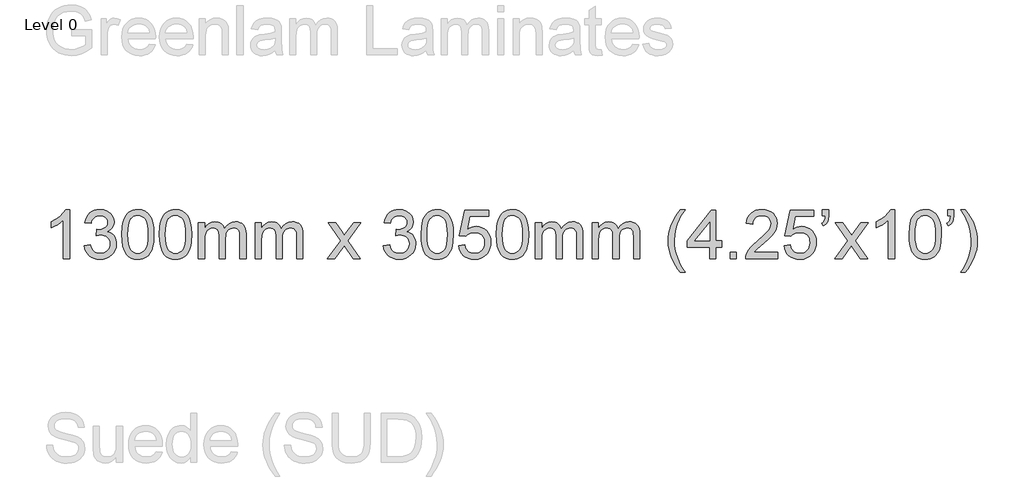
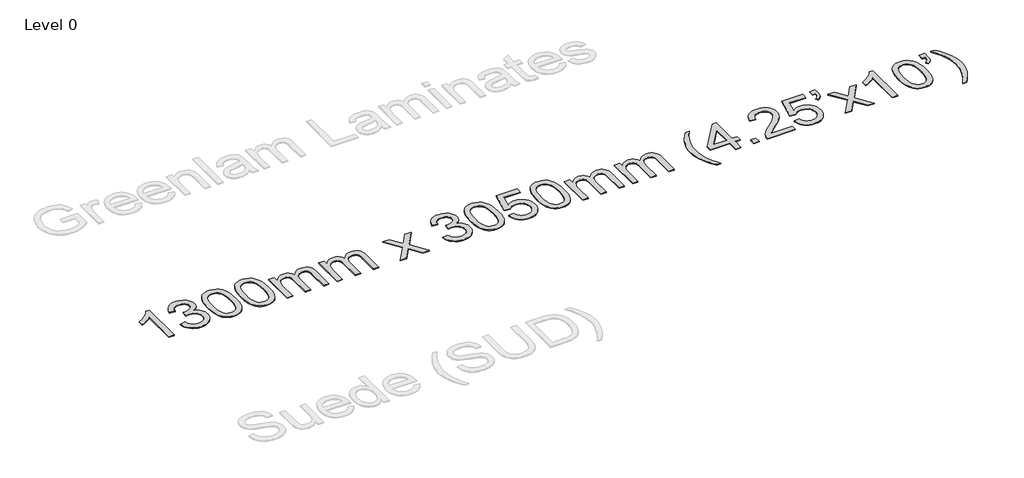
# One storey, part 42 of 43: 1 proxy.
"""IFC4 building model written with IfcOpenShell, lengths in millimetres."""

import ifcopenshell
import ifcopenshell.guid

model = None  # the IFC model being written
_history = None  # IfcOwnerHistory: only IFC2X3 demands one
_inside = {}  # id of a spatial element -> (the spatial element, [elements in it])
_under = {}  # id of a project, library or spatial element -> (it, [spatial elements below it])
_declared = {}  # id of a project -> (the project, [libraries it declares])
_typed = {}  # id of a type object -> (the type object, [elements of that type])
_made_of = {}  # id of a material, layer set ... -> (it, [elements and type objects made of it])


def new_model(schema):
    """Start an empty IFC model of exactly this schema.

    Asked for "IFC4X3", IfcOpenShell would pick the latest addendum, in which some entities
    have other attributes; the version numbers below select the first issue.
    IFC2X3 requires an IfcOwnerHistory on every rooted entity: one is made here for all.
    """
    global model, _history
    if schema == "IFC4X3":
        model = ifcopenshell.file(schema_version=(4, 3, 0, 0))
    else:
        model = ifcopenshell.file(schema=schema)
    _inside.clear()
    _under.clear()
    _declared.clear()
    _typed.clear()
    _made_of.clear()
    _history = None
    if model.schema == "IFC2X3":
        org = make("IfcOrganization", Name="unknown")
        user = make(
            "IfcPersonAndOrganization",
            ThePerson=make("IfcPerson", FamilyName="unknown"),
            TheOrganization=org,
        )
        app = make(
            "IfcApplication",
            ApplicationDeveloper=org,
            Version="unknown",
            ApplicationFullName="unknown",
            ApplicationIdentifier="unknown",
        )
        _history = make(
            "IfcOwnerHistory",
            OwningUser=user,
            OwningApplication=app,
            ChangeAction="ADDED",
            CreationDate=0,
        )
    return model


def make(cls, **values):
    """One entity of the class cls with the attributes given. An attribute that is None is left unset."""
    return model.create_entity(
        cls, **{name: value for name, value in values.items() if value is not None}
    )


def rooted(cls, **values):
    """An entity with a GlobalId (a new one), such as an element, a storey or a relation."""
    return make(cls, GlobalId=ifcopenshell.guid.new(), OwnerHistory=_history, **values)


def si_unit(unit_type, name, prefix=None):
    """IfcSIUnit, for example si_unit("LENGTHUNIT", "METRE", prefix="MILLI")."""
    return make("IfcSIUnit", UnitType=unit_type, Prefix=prefix, Name=name)


def assignment(units):
    """IfcUnitAssignment: the units of a project."""
    return None if units is None else make("IfcUnitAssignment", Units=units)


def point(xyz):
    """IfcCartesianPoint."""
    return None if xyz is None else make("IfcCartesianPoint", Coordinates=xyz)


def direction(xyz):
    """IfcDirection."""
    return None if xyz is None else make("IfcDirection", DirectionRatios=xyz)


def frame(location, z_axis=None, x_axis=None):
    """IfcAxis2Placement3D, a coordinate frame: its origin and axes. An axis left out is left unset."""
    return make(
        "IfcAxis2Placement3D",
        Location=point(location),
        Axis=direction(z_axis),
        RefDirection=direction(x_axis),
    )


def origin():
    """The frame at (0, 0, 0) with its axes left unset."""
    return frame((0.0, 0.0, 0.0))


def origin_with_axes():
    """The frame at (0, 0, 0) with the z axis (0, 0, 1) and the x axis (1, 0, 0) written out."""
    return frame((0.0, 0.0, 0.0), z_axis=(0.0, 0.0, 1.0), x_axis=(1.0, 0.0, 0.0))


def place(relative_to, where):
    """IfcLocalPlacement: puts the frame where relative to a parent placement (None: the world)."""
    return make(
        "IfcLocalPlacement", PlacementRelTo=relative_to, RelativePlacement=where
    )


def context(
    kind, dimensions, precision=None, world=None, true_north=None, identifier=None
):
    """IfcGeometricRepresentationContext, for example the 3D "Model" context."""
    return make(
        "IfcGeometricRepresentationContext",
        ContextIdentifier=identifier,
        ContextType=kind,
        CoordinateSpaceDimension=dimensions,
        Precision=precision,
        WorldCoordinateSystem=world,
        TrueNorth=true_north,
    )


def project(units=None, contexts=None):
    """IfcProject with its units and contexts."""
    return rooted(
        "IfcProject",
        Name="project",
        RepresentationContexts=contexts,
        UnitsInContext=assignment(units),
    )


def spatial(cls, under=None, at=None, **own):
    """A site, building, storey or space (cls), placed at a placement, below another one or the project."""
    s = rooted(cls, ObjectPlacement=at, **own)
    if under is not None:
        _under.setdefault(under.id(), (under, []))[1].append(s)
    return s


def polyline(points):
    """IfcPolyline through the points."""
    return make("IfcPolyline", Points=[point(p) for p in points])


def outline(outer, holes=None, kind="AREA"):
    """IfcArbitraryClosedProfileDef: a profile drawn as a closed curve; with holes, ...WithVoids."""
    if holes is None:
        return make("IfcArbitraryClosedProfileDef", ProfileType=kind, OuterCurve=outer)
    return make(
        "IfcArbitraryProfileDefWithVoids",
        ProfileType=kind,
        OuterCurve=outer,
        InnerCurves=holes,
    )


def extrude(swept, where, along, depth):
    """IfcExtrudedAreaSolid: the profile swept, set in the frame where, extruded along a direction by depth."""
    return make(
        "IfcExtrudedAreaSolid",
        SweptArea=swept,
        Position=where,
        ExtrudedDirection=direction(along),
        Depth=depth,
    )


def shape(context_of_items, identifier, shape_type, items):
    """IfcShapeRepresentation: the items that make up one representation, for example the "Body"."""
    return make(
        "IfcShapeRepresentation",
        ContextOfItems=context_of_items,
        RepresentationIdentifier=identifier,
        RepresentationType=shape_type,
        Items=items,
    )


def made_of(thing, what):
    """Note that an element or type object is made of a material, layer set ...; save() writes the relation."""
    if what is not None:
        _made_of.setdefault(what.id(), (what, []))[1].append(thing)
    return thing


def element(
    cls,
    number,
    at=None,
    inside=None,
    cuts=None,
    type_object=None,
    material=None,
    context=None,
    identifier="Body",
    shape_type=None,
    held_by="IfcProductDefinitionShape",
    body=None,
    shapes=None,
    **own,
):
    """One element of the class cls, such as IfcWall. Its Tag is "e" and its number.

    at: its placement. inside: the storey or other place that contains it. cuts: it is an
    opening in that element (IfcRelVoidsElement). A single representation is given by context,
    identifier, shape_type and body (its items); several are given by shapes. held_by: the class
    of the entity that holds the representations. save() writes the other relations.
    """
    e = rooted(cls, Tag="e%d" % number, ObjectPlacement=at, **own)
    if body is not None:
        shapes = [shape(context, identifier, shape_type, body)]
    if shapes is not None:
        e.Representation = make(held_by, Representations=shapes)
    if inside is not None:
        _inside.setdefault(inside.id(), (inside, []))[1].append(e)
    if cuts is not None:
        rooted(
            "IfcRelVoidsElement", RelatingBuildingElement=cuts, RelatedOpeningElement=e
        )
    if type_object is not None:
        _typed.setdefault(type_object.id(), (type_object, []))[1].append(e)
    return made_of(e, material)


def aggregate(whole, parts):
    """IfcRelAggregates: a whole, such as a stair, and the parts it consists of."""
    return rooted("IfcRelAggregates", RelatingObject=whole, RelatedObjects=parts)


def save(model, path):
    """Write the relations noted so far, then the file.

    IfcRelAggregates (storeys below a building ...), IfcRelContainedInSpatialStructure (elements
    in a storey), IfcRelDefinesByType, IfcRelAssociatesMaterial and IfcRelDeclares: one each for
    every whole, place, type object, material and project.
    """
    for whole, parts in _under.values():
        aggregate(whole, parts)
    for where, things in _inside.values():
        rooted(
            "IfcRelContainedInSpatialStructure",
            RelatedElements=things,
            RelatingStructure=where,
        )
    for kind, things in _typed.values():
        rooted("IfcRelDefinesByType", RelatedObjects=things, RelatingType=kind)
    for what, things in _made_of.values():
        rooted("IfcRelAssociatesMaterial", RelatedObjects=things, RelatingMaterial=what)
    for by, libraries in _declared.values():
        rooted("IfcRelDeclares", RelatingContext=by, RelatedDefinitions=libraries)
    model.write(path)


model = new_model("IFC4")

# Units and contexts
model_context = context("Model", 3, world=origin())
ifc_project = project(units=[si_unit("LENGTHUNIT", "METRE", prefix="MILLI")], contexts=[model_context])

# Site, building, storey
site = spatial("IfcSite", under=ifc_project)
building = spatial("IfcBuilding", under=site)
storey = spatial("IfcBuildingStorey", under=building, Name="Level 0", Elevation=0.0)

# Proxy
placement = place(None, origin())
element("IfcBuildingElementProxy", 1, Name="600mm Arial", ObjectType="600mm Arial", at=placement, inside=storey, context=model_context, shape_type="SweptSolid", body=[
    extrude(outline(polyline([(-10623.1831502, 260.1279527), (-10698.5253828, 260.1279527), (-10698.5253828, 729.8396841), (-10729.9792934, 704.4006441), (-10769.8944899, 678.9983924), (-10811.7962491, 656.796714), (-10849.209848, 640.9593941), (-10849.209848, 712.1813483), (-10790.0360291, 744.3710229), (-10738.7716731, 782.6675386), (-10698.3598359, 823.3920755), (-10671.7435735, 862.8658136), (-10623.1831502, 862.8658136), (-10623.1831502, 260.1279527)])), origin_with_axes(), (0.0, 0.0, 1.0), 10.0),
    extrude(outline(polyline([(-10444.2453477, 420.230197), (-10368.9031151, 429.647976), (-10352.0357256, 382.3015633), (-10340.6635735, 364.3949072), (-10327.3324497, 350.3326179), (-10311.7388516, 339.7100253), (-10293.5792766, 332.1224591), (-10272.8537247, 327.5699194), (-10249.5621959, 326.0524062), (-10222.2653518, 328.1401365), (-10197.9115638, 334.4033275), (-10176.5008316, 344.8419791), (-10158.0331555, 359.4560914), (-10143.1615258, 377.1512153), (-10132.5389332, 396.8329021), (-10126.1653776, 418.5011516), (-10124.0408591, 442.1559639), (-10126.1469835, 464.6841376), (-10132.4653568, 485.1797632), (-10142.9959789, 503.6428409), (-10157.7388499, 520.0733705), (-10175.7282794, 533.5608441), (-10195.9985774, 543.1947539), (-10218.5497437, 548.9750997), (-10243.3817784, 550.9018817), (-10267.1837434, 548.8417425), (-10296.2096329, 542.661325), (-10287.8219234, 618.0035576), (-10275.7553939, 617.1206408), (-10230.6162731, 622.5285061), (-10190.2596183, 638.7521021), (-10173.6497462, 651.0209666), (-10161.7855518, 666.1960989), (-10154.6670352, 684.277499), (-10152.2941963, 705.2651668), (-10154.0140447, 722.3027017), (-10159.1735897, 737.8043293), (-10167.7728313, 751.7700496), (-10179.8117696, 764.1998625), (-10194.5638376, 774.4039893), (-10211.3024684, 781.6926513), (-10250.7394183, 787.523581), (-10271.3959923, 786.052053), (-10290.2499445, 781.637469), (-10307.301275, 774.2798291), (-10322.5499837, 763.9791333), (-10335.6189916, 750.7353814), (-10346.1312196, 734.5485737), (-10354.0866678, 715.4187099), (-10359.485336, 693.3457902), (-10434.8275686, 702.7635693), (-10425.8972332, 738.7332313), (-10412.6442843, 770.4170682), (-10395.068722, 797.8150798), (-10373.1705463, 820.9272661), (-10347.6395358, 839.2753806), (-10319.1654694, 852.3811767), (-10287.748347, 860.2446544), (-10253.3881686, 862.8658136), (-10206.0233617, 857.6970715), (-10162.5213158, 842.1908454), (-10125.8434809, 817.7266928), (-10098.951307, 785.684171), (-10082.4517996, 748.7672128), (-10076.9519637, 709.6797508), (-10082.1758881, 673.2594333), (-10097.8476611, 640.2236301), (-10123.7465535, 612.0806575), (-10159.6518363, 590.3388315), (-10134.5438901, 582.4845509), (-10112.4893645, 571.2825442), (-10093.4882594, 556.7328113), (-10077.5405749, 538.8353522), (-10064.9222225, 518.0316254), (-10055.9091136, 494.7630892), (-10050.5012483, 469.0297436), (-10048.6986265, 440.8315887), (-10052.3038701, 402.6086494), (-10063.1196007, 367.4023425), (-10081.1458185, 335.2126679), (-10106.3825234, 306.0396257), (-10137.1282611, 281.8329904), (-10171.6815775, 264.5425366), (-10210.0424725, 254.1682643), (-10252.2109462, 250.7101736), (-10290.3235209, 253.6624266), (-10325.0515813, 262.5191856), (-10356.3951273, 277.2804507), (-10384.3541589, 297.9462218), (-10407.797439, 323.3024883), (-10425.5937306, 352.1352397), (-10437.7430335, 384.4444759), (-10444.2453477, 420.230197)])), origin_with_axes(), (0.0, 0.0, 1.0), 10.0),
    extrude(outline(polyline([(-9982.774173, 556.6408408), (-9977.2375489, 653.117894), (-9970.3167689, 694.0309704), (-9960.6276769, 730.0604133), (-9948.2116595, 761.5005283), (-9933.1101036, 788.645621), (-9915.3230092, 811.4956915), (-9894.8503761, 830.0507396), (-9871.6232267, 844.4073345), (-9845.5725829, 854.6620451), (-9816.6984448, 860.8148714), (-9785.0008124, 862.8658136), (-9738.5741046, 858.0097712), (-9697.0034391, 843.4416442), (-9662.2385906, 819.7316496), (-9636.2293335, 787.4500046), (-9616.584435, 746.8726205), (-9600.912662, 698.2754089), (-9590.6487543, 636.5632042), (-9587.2274518, 556.6408408), (-9592.7088935, 460.7156105), (-9599.5606956, 419.9404899), (-9609.1532187, 383.9570322), (-9621.472667, 352.5031217), (-9636.505245, 325.3166422), (-9654.2509528, 302.3975939), (-9674.7097902, 283.7459768), (-9697.9645308, 269.2928129), (-9724.0979481, 258.9691244), (-9753.1100419, 252.7749113), (-9785.0008124, 250.7101736), (-9826.4979014, 254.297023), (-9863.2861009, 265.0575714), (-9895.3654109, 282.9918187), (-9922.7358314, 308.0997648), (-9949.0026058, 353.487206), (-9967.7645876, 410.0398657), (-9979.0217766, 477.757744), (-9982.774173, 556.6408408)]), holes=[polyline([(-9907.4319404, 556.7879936), (-9905.2246484, 491.2912029), (-9898.6027725, 438.2748088), (-9887.5663126, 397.7388115), (-9872.1152688, 369.6832108), (-9853.4268635, 350.5947338), (-9832.6783189, 336.9601074), (-9809.8696352, 328.7793315), (-9785.0008124, 326.0524062), (-9760.1319895, 328.7885285), (-9737.3233058, 336.9968956), (-9716.5747613, 350.6775073), (-9697.8863559, 369.8303636), (-9682.4353121, 397.9319495), (-9671.3988523, 438.4587498), (-9664.7769763, 491.4107645), (-9662.5696844, 556.7879936), (-9664.7033999, 620.5511404), (-9671.1045467, 672.6340339), (-9681.7731245, 713.036674), (-9696.7091335, 741.7590608), (-9715.0848392, 761.7810383), (-9736.072507, 776.0824509), (-9759.672137, 784.6632984), (-9785.8837292, 787.523581), (-9810.6237933, 785.0035893), (-9833.0462009, 777.4436143), (-9853.150952, 764.843656), (-9870.9380464, 747.2037143), (-9886.904125, 715.9337447), (-9898.3084669, 673.774468), (-9905.151072, 620.7258843), (-9907.4319404, 556.7879936)])]), origin_with_axes(), (0.0, 0.0, 1.0), 10.0),
    extrude(outline(polyline([(-9521.3029982, 556.6408408), (-9515.7663742, 653.117894), (-9508.8455942, 694.0309704), (-9499.1565021, 730.0604133), (-9486.7404848, 761.5005283), (-9471.6389289, 788.645621), (-9453.8518344, 811.4956915), (-9433.3792014, 830.0507396), (-9410.1520519, 844.4073345), (-9384.1014081, 854.6620451), (-9355.22727, 860.8148714), (-9323.5296376, 862.8658136), (-9277.1029298, 858.0097712), (-9235.5322644, 843.4416442), (-9200.7674158, 819.7316496), (-9174.7581588, 787.4500046), (-9155.1132602, 746.8726205), (-9139.4414872, 698.2754089), (-9129.1775796, 636.5632042), (-9125.756277, 556.6408408), (-9131.2377187, 460.7156105), (-9138.0895209, 419.9404899), (-9147.6820439, 383.9570322), (-9160.0014922, 352.5031217), (-9175.0340703, 325.3166422), (-9192.779778, 302.3975939), (-9213.2386155, 283.7459768), (-9236.4933561, 269.2928129), (-9262.6267733, 258.9691244), (-9291.6388672, 252.7749113), (-9323.5296376, 250.7101736), (-9365.0267267, 254.297023), (-9401.8149262, 265.0575714), (-9433.8942362, 282.9918187), (-9461.2646566, 308.0997648), (-9487.5314311, 353.487206), (-9506.2934128, 410.0398657), (-9517.5506019, 477.757744), (-9521.3029982, 556.6408408)]), holes=[polyline([(-9445.9607656, 556.7879936), (-9443.7534736, 491.2912029), (-9437.1315977, 438.2748088), (-9426.0951379, 397.7388115), (-9410.6440941, 369.6832108), (-9391.9556887, 350.5947338), (-9371.2071442, 336.9601074), (-9348.3984605, 328.7793315), (-9323.5296376, 326.0524062), (-9298.6608147, 328.7885285), (-9275.852131, 336.9968956), (-9255.1035865, 350.6775073), (-9236.4151812, 369.8303636), (-9220.9641374, 397.9319495), (-9209.9276775, 438.4587498), (-9203.3058016, 491.4107645), (-9201.0985096, 556.7879936), (-9203.2322252, 620.5511404), (-9209.6333719, 672.6340339), (-9220.3019498, 713.036674), (-9235.2379588, 741.7590608), (-9253.6136644, 761.7810383), (-9274.6013323, 776.0824509), (-9298.2009622, 784.6632984), (-9324.4125544, 787.523581), (-9349.1526186, 785.0035893), (-9371.5750262, 777.4436143), (-9391.6797772, 764.843656), (-9409.4668717, 747.2037143), (-9425.4329503, 715.9337447), (-9436.8372921, 673.774468), (-9443.6798972, 620.7258843), (-9445.9607656, 556.7879936)])]), origin_with_axes(), (0.0, 0.0, 1.0), 10.0),
    extrude(outline(polyline([(-9040.9962653, 260.1279527), (-9040.9962653, 702.7635693), (-8965.6540327, 702.7635693), (-8965.6540327, 629.9229342), (-8942.9925018, 663.3818017), (-8913.8562478, 689.5933938), (-8879.238552, 706.5343597), (-8840.132696, 712.1813483), (-8798.2309367, 706.4239951), (-8780.397857, 699.2273036), (-8764.6433105, 689.1519354), (-8739.5537585, 661.5056035), (-8723.1462215, 624.6254335), (-8695.6838305, 662.9311462), (-8664.3586787, 690.2923696), (-8629.1707658, 706.7091037), (-8590.120092, 712.1813483), (-8559.958367, 709.9050785), (-8533.4846589, 703.076269), (-8510.6989678, 691.6949197), (-8491.6012937, 675.7610308), (-8476.5043363, 655.0906612), (-8465.7207954, 629.4998699), (-8459.2506708, 598.988657), (-8457.0939626, 563.5570223), (-8457.0939626, 260.1279527), (-8532.4361952, 260.1279527), (-8532.4361952, 531.1834067), (-8534.1836347, 568.7625525), (-8539.4259531, 594.0912279), (-8549.2484024, 611.436864), (-8564.7362344, 625.0668919), (-8584.6570444, 633.8960598), (-8607.7784278, 636.8391157), (-8629.1293791, 634.9537205), (-8648.5949352, 629.2975348), (-8666.175096, 619.8705587), (-8681.8698616, 606.6727921), (-8694.7779211, 589.317959), (-8703.9979636, 567.4197832), (-8709.5299891, 540.9782648), (-8711.3739976, 509.9934038), (-8711.3739976, 260.1279527), (-8786.7162303, 260.1279527), (-8786.7162303, 539.5711162), (-8791.0756319, 582.1718512), (-8796.5248839, 598.8920879), (-8804.1538368, 612.5589041), (-8814.2659932, 623.1814967), (-8827.1648556, 630.7690628), (-8842.8504242, 635.3216025), (-8861.3226989, 636.8391157), (-8890.3485883, 632.7924138), (-8917.0936093, 620.6523079), (-8939.1665291, 600.7131038), (-8954.1761145, 573.269107), (-8962.7845531, 535.1933205), (-8965.6540327, 483.3587473), (-8965.6540327, 260.1279527), (-9040.9962653, 260.1279527)])), origin_with_axes(), (0.0, 0.0, 1.0), 10.0),
    extrude(outline(polyline([(-8344.0806137, 260.1279527), (-8344.0806137, 702.7635693), (-8268.738381, 702.7635693), (-8268.738381, 629.9229342), (-8246.0768501, 663.3818017), (-8216.9405961, 689.5933938), (-8182.3229004, 706.5343597), (-8143.2170443, 712.1813483), (-8101.315285, 706.4239951), (-8083.4822053, 699.2273036), (-8067.7276589, 689.1519354), (-8042.6381068, 661.5056035), (-8026.2305698, 624.6254335), (-7998.7681789, 662.9311462), (-7967.443027, 690.2923696), (-7932.2551142, 706.7091037), (-7893.2044404, 712.1813483), (-7863.0427153, 709.9050785), (-7836.5690072, 703.076269), (-7813.7833161, 691.6949197), (-7794.6856421, 675.7610308), (-7779.5886847, 655.0906612), (-7768.8051437, 629.4998699), (-7762.3350191, 598.988657), (-7760.1783109, 563.5570223), (-7760.1783109, 260.1279527), (-7835.5205435, 260.1279527), (-7835.5205435, 531.1834067), (-7837.267983, 568.7625525), (-7842.5103014, 594.0912279), (-7852.3327507, 611.436864), (-7867.8205827, 625.0668919), (-7887.7413927, 633.8960598), (-7910.8627761, 636.8391157), (-7932.2137274, 634.9537205), (-7951.6792835, 629.2975348), (-7969.2594443, 619.8705587), (-7984.95421, 606.6727921), (-7997.8622695, 589.317959), (-8007.082312, 567.4197832), (-8012.6143375, 540.9782648), (-8014.458346, 509.9934038), (-8014.458346, 260.1279527), (-8089.8005786, 260.1279527), (-8089.8005786, 539.5711162), (-8094.1599802, 582.1718512), (-8099.6092323, 598.8920879), (-8107.2381852, 612.5589041), (-8117.3503415, 623.1814967), (-8130.249204, 630.7690628), (-8145.9347725, 635.3216025), (-8164.4070472, 636.8391157), (-8193.4329366, 632.7924138), (-8220.1779577, 620.6523079), (-8242.2508774, 600.7131038), (-8257.2604628, 573.269107), (-8265.8689015, 535.1933205), (-8268.738381, 483.3587473), (-8268.738381, 260.1279527), (-8344.0806137, 260.1279527)])), origin_with_axes(), (0.0, 0.0, 1.0), 10.0),
    extrude(outline(polyline([(-7458.8093805, 260.1279527), (-7297.8242194, 482.6229834), (-7449.3916014, 702.7635693), (-7358.7454778, 702.7635693), (-7285.6105371, 596.8135547), (-7251.471088, 546.7816033), (-7221.8933756, 587.6900812), (-7138.6048919, 702.7635693), (-7047.9587682, 702.7635693), (-7207.1780958, 482.6229834), (-7053.8448802, 260.1279527), (-7144.4910038, 260.1279527), (-7236.7558082, 393.8898461), (-7253.67838, 418.3172106), (-7368.1632569, 260.1279527), (-7458.8093805, 260.1279527)])), origin_with_axes(), (0.0, 0.0, 1.0), 10.0),
    extrude(outline(polyline([(-6771.3115079, 420.230197), (-6695.9692753, 429.647976), (-6679.1018858, 382.3015633), (-6667.7297336, 364.3949072), (-6654.3986098, 350.3326179), (-6638.8050117, 339.7100253), (-6620.6454368, 332.1224591), (-6599.9198848, 327.5699194), (-6576.628356, 326.0524062), (-6549.331512, 328.1401365), (-6524.9777239, 334.4033275), (-6503.5669918, 344.8419791), (-6485.0993156, 359.4560914), (-6470.227686, 377.1512153), (-6459.6050934, 396.8329021), (-6453.2315378, 418.5011516), (-6451.1070193, 442.1559639), (-6453.2131437, 464.6841376), (-6459.531517, 485.1797632), (-6470.0621391, 503.6428409), (-6484.80501, 520.0733705), (-6502.7944396, 533.5608441), (-6523.0647375, 543.1947539), (-6545.6159038, 548.9750997), (-6570.4479385, 550.9018817), (-6594.2499036, 548.8417425), (-6623.275793, 542.661325), (-6614.8880835, 618.0035576), (-6602.8215541, 617.1206408), (-6557.6824333, 622.5285061), (-6517.3257784, 638.7521021), (-6500.7159063, 651.0209666), (-6488.851712, 666.1960989), (-6481.7331954, 684.277499), (-6479.3603565, 705.2651668), (-6481.0802048, 722.3027017), (-6486.2397498, 737.8043293), (-6494.8389915, 751.7700496), (-6506.8779297, 764.1998625), (-6521.6299977, 774.4039893), (-6538.3686285, 781.6926513), (-6577.8055784, 787.523581), (-6598.4621524, 786.052053), (-6617.3161047, 781.637469), (-6634.3674352, 774.2798291), (-6649.6161439, 763.9791333), (-6662.6851517, 750.7353814), (-6673.1973798, 734.5485737), (-6681.1528279, 715.4187099), (-6686.5514962, 693.3457902), (-6761.8937288, 702.7635693), (-6752.9633934, 738.7332313), (-6739.7104445, 770.4170682), (-6722.1348822, 797.8150798), (-6700.2367064, 820.9272661), (-6674.7056959, 839.2753806), (-6646.2316295, 852.3811767), (-6614.8145071, 860.2446544), (-6580.4543288, 862.8658136), (-6533.0895219, 857.6970715), (-6489.587476, 842.1908454), (-6452.9096411, 817.7266928), (-6426.0174672, 785.684171), (-6409.5179597, 748.7672128), (-6404.0181239, 709.6797508), (-6409.2420482, 673.2594333), (-6424.9138212, 640.2236301), (-6450.8127137, 612.0806575), (-6486.7179964, 590.3388315), (-6461.6100502, 582.4845509), (-6439.5555246, 571.2825442), (-6420.5544196, 556.7328113), (-6404.6067351, 538.8353522), (-6391.9883826, 518.0316254), (-6382.9752738, 494.7630892), (-6377.5674084, 469.0297436), (-6375.7647867, 440.8315887), (-6379.3700302, 402.6086494), (-6390.1857609, 367.4023425), (-6408.2119786, 335.2126679), (-6433.4486835, 306.0396257), (-6464.1944213, 281.8329904), (-6498.7477376, 264.5425366), (-6537.1086327, 254.1682643), (-6579.2771064, 250.7101736), (-6617.3896811, 253.6624266), (-6652.1177414, 262.5191856), (-6683.4612874, 277.2804507), (-6711.4203191, 297.9462218), (-6734.8635992, 323.3024883), (-6752.6598907, 352.1352397), (-6764.8091936, 384.4444759), (-6771.3115079, 420.230197)])), origin_with_axes(), (0.0, 0.0, 1.0), 10.0),
    extrude(outline(polyline([(-6309.8403331, 556.6408408), (-6304.3037091, 653.117894), (-6297.3829291, 694.0309704), (-6287.693837, 730.0604133), (-6275.2778197, 761.5005283), (-6260.1762638, 788.645621), (-6242.3891693, 811.4956915), (-6221.9165363, 830.0507396), (-6198.6893868, 844.4073345), (-6172.638743, 854.6620451), (-6143.7646049, 860.8148714), (-6112.0669725, 862.8658136), (-6065.6402647, 858.0097712), (-6024.0695993, 843.4416442), (-5989.3047507, 819.7316496), (-5963.2954937, 787.4500046), (-5943.6505951, 746.8726205), (-5927.9788221, 698.2754089), (-5917.7149145, 636.5632042), (-5914.2936119, 556.6408408), (-5919.7750536, 460.7156105), (-5926.6268558, 419.9404899), (-5936.2193788, 383.9570322), (-5948.5388271, 352.5031217), (-5963.5714052, 325.3166422), (-5981.3171129, 302.3975939), (-6001.7759504, 283.7459768), (-6025.030691, 269.2928129), (-6051.1641082, 258.9691244), (-6080.1762021, 252.7749113), (-6112.0669725, 250.7101736), (-6153.5640616, 254.297023), (-6190.3522611, 265.0575714), (-6222.4315711, 282.9918187), (-6249.8019915, 308.0997648), (-6276.068766, 353.487206), (-6294.8307477, 410.0398657), (-6306.0879368, 477.757744), (-6309.8403331, 556.6408408)]), holes=[polyline([(-6234.4981005, 556.7879936), (-6232.2908085, 491.2912029), (-6225.6689326, 438.2748088), (-6214.6324728, 397.7388115), (-6199.181429, 369.6832108), (-6180.4930236, 350.5947338), (-6159.7444791, 336.9601074), (-6136.9357954, 328.7793315), (-6112.0669725, 326.0524062), (-6087.1981496, 328.7885285), (-6064.3894659, 336.9968956), (-6043.6409214, 350.6775073), (-6024.9525161, 369.8303636), (-6009.5014723, 397.9319495), (-5998.4650124, 438.4587498), (-5991.8431365, 491.4107645), (-5989.6358445, 556.7879936), (-5991.7695601, 620.5511404), (-5998.1707068, 672.6340339), (-6008.8392847, 713.036674), (-6023.7752937, 741.7590608), (-6042.1509993, 761.7810383), (-6063.1386672, 776.0824509), (-6086.7382972, 784.6632984), (-6112.9498893, 787.523581), (-6137.6899535, 785.0035893), (-6160.1123611, 777.4436143), (-6180.2171121, 764.843656), (-6198.0042066, 747.2037143), (-6213.9702852, 715.9337447), (-6225.374627, 673.774468), (-6232.2172321, 620.7258843), (-6234.4981005, 556.7879936)])]), origin_with_axes(), (0.0, 0.0, 1.0), 10.0),
    extrude(outline(polyline([(-5848.3691584, 420.230197), (-5773.0269258, 429.647976), (-5767.3983312, 405.4275452), (-5759.1945627, 384.4168847), (-5748.4156203, 366.6159947), (-5735.0615039, 352.0248751), (-5719.1598046, 340.6619199), (-5700.7381137, 332.5455234), (-5679.7964311, 327.6756855), (-5656.3347569, 326.0524062), (-5627.6399613, 328.310282), (-5602.32968, 335.0839092), (-5580.4039131, 346.3732879), (-5561.8626605, 362.1784181), (-5547.1197896, 381.7175506), (-5536.5891675, 404.2089361), (-5530.2707942, 429.6525746), (-5528.1646698, 458.0484661), (-5530.137437, 484.8854576), (-5536.0557386, 508.742605), (-5545.9195746, 529.6199082), (-5559.728945, 547.5173673), (-5577.529835, 561.8739622), (-5599.3682299, 572.1286728), (-5625.2441298, 578.2814991), (-5655.1575345, 580.3324413), (-5691.7066107, 577.0582915), (-5721.3027172, 567.2358422), (-5744.9391354, 552.1894686), (-5763.6091467, 533.2435459), (-5838.9513793, 542.661325), (-5773.0269258, 853.4480345), (-5481.0757744, 853.4480345), (-5481.0757744, 778.1058019), (-5712.1056674, 778.1058019), (-5744.3321301, 612.1174457), (-5717.7434589, 631.173733), (-5690.5109942, 644.7853668), (-5662.6347361, 652.9523471), (-5634.1146844, 655.6746739), (-5597.4230539, 652.2993566), (-5563.7204646, 642.1734047), (-5533.0069165, 625.2968181), (-5505.2824097, 601.669597), (-5482.3311717, 572.7356781), (-5465.9374303, 539.9389982), (-5456.1011854, 503.2795574), (-5452.8224372, 462.7573556), (-5455.7746902, 423.7250759), (-5464.6314492, 387.415123), (-5479.3927143, 353.8274968), (-5500.0584853, 322.9621974), (-5531.3652431, 291.351937), (-5567.8959253, 268.7731796), (-5609.6505317, 255.2259251), (-5656.6290625, 250.7101736), (-5695.5095909, 253.6118428), (-5730.6285258, 262.3168505), (-5761.9858674, 276.8251967), (-5789.5816155, 297.1368814), (-5812.5420506, 322.240229), (-5829.9934527, 351.1235642), (-5841.935822, 383.7868868), (-5848.3691584, 420.230197)])), origin_with_axes(), (0.0, 0.0, 1.0), 10.0),
    extrude(outline(polyline([(-5386.8979836, 556.6408408), (-5381.3613596, 653.117894), (-5374.4405796, 694.0309704), (-5364.7514875, 730.0604133), (-5352.3354702, 761.5005283), (-5337.2339143, 788.645621), (-5319.4468198, 811.4956915), (-5298.9741868, 830.0507396), (-5275.7470373, 844.4073345), (-5249.6963935, 854.6620451), (-5220.8222554, 860.8148714), (-5189.124623, 862.8658136), (-5142.6979152, 858.0097712), (-5101.1272498, 843.4416442), (-5066.3624012, 819.7316496), (-5040.3531442, 787.4500046), (-5020.7082456, 746.8726205), (-5005.0364726, 698.2754089), (-4994.772565, 636.5632042), (-4991.3512624, 556.6408408), (-4996.8327041, 460.7156105), (-5003.6845063, 419.9404899), (-5013.2770293, 383.9570322), (-5025.5964776, 352.5031217), (-5040.6290557, 325.3166422), (-5058.3747634, 302.3975939), (-5078.8336009, 283.7459768), (-5102.0883415, 269.2928129), (-5128.2217587, 258.9691244), (-5157.2338526, 252.7749113), (-5189.124623, 250.7101736), (-5230.6217121, 254.297023), (-5267.4099116, 265.0575714), (-5299.4892216, 282.9918187), (-5326.859642, 308.0997648), (-5353.1264165, 353.487206), (-5371.8883982, 410.0398657), (-5383.1455873, 477.757744), (-5386.8979836, 556.6408408)]), holes=[polyline([(-5311.555751, 556.7879936), (-5309.348459, 491.2912029), (-5302.7265831, 438.2748088), (-5291.6901233, 397.7388115), (-5276.2390795, 369.6832108), (-5257.5506741, 350.5947338), (-5236.8021296, 336.9601074), (-5213.9934459, 328.7793315), (-5189.124623, 326.0524062), (-5164.2558001, 328.7885285), (-5141.4471164, 336.9968956), (-5120.6985719, 350.6775073), (-5102.0101666, 369.8303636), (-5086.5591228, 397.9319495), (-5075.5226629, 438.4587498), (-5068.900787, 491.4107645), (-5066.693495, 556.7879936), (-5068.8272106, 620.5511404), (-5075.2283573, 672.6340339), (-5085.8969352, 713.036674), (-5100.8329442, 741.7590608), (-5119.2086498, 761.7810383), (-5140.1963177, 776.0824509), (-5163.7959477, 784.6632984), (-5190.0075398, 787.523581), (-5214.747604, 785.0035893), (-5237.1700116, 777.4436143), (-5257.2747626, 764.843656), (-5275.0618571, 747.2037143), (-5291.0279357, 715.9337447), (-5302.4322775, 673.774468), (-5309.2748826, 620.7258843), (-5311.555751, 556.7879936)])]), origin_with_axes(), (0.0, 0.0, 1.0), 10.0),
    extrude(outline(polyline([(-4906.5912507, 260.1279527), (-4906.5912507, 702.7635693), (-4831.2490181, 702.7635693), (-4831.2490181, 629.9229342), (-4808.5874872, 663.3818017), (-4779.4512332, 689.5933938), (-4744.8335374, 706.5343597), (-4705.7276814, 712.1813483), (-4663.8259221, 706.4239951), (-4645.9928424, 699.2273036), (-4630.2382959, 689.1519354), (-4605.1487439, 661.5056035), (-4588.7412069, 624.6254335), (-4561.278816, 662.9311462), (-4529.9536641, 690.2923696), (-4494.7657512, 706.7091037), (-4455.7150774, 712.1813483), (-4425.5533524, 709.9050785), (-4399.0796443, 703.076269), (-4376.2939532, 691.6949197), (-4357.1962791, 675.7610308), (-4342.0993217, 655.0906612), (-4331.3157808, 629.4998699), (-4324.8456562, 598.988657), (-4322.688948, 563.5570223), (-4322.688948, 260.1279527), (-4398.0311806, 260.1279527), (-4398.0311806, 531.1834067), (-4399.7786201, 568.7625525), (-4405.0209385, 594.0912279), (-4414.8433878, 611.436864), (-4430.3312198, 625.0668919), (-4450.2520298, 633.8960598), (-4473.3734132, 636.8391157), (-4494.7243645, 634.9537205), (-4514.1899206, 629.2975348), (-4531.7700814, 619.8705587), (-4547.464847, 606.6727921), (-4560.3729065, 589.317959), (-4569.592949, 567.4197832), (-4575.1249745, 540.9782648), (-4576.968983, 509.9934038), (-4576.968983, 260.1279527), (-4652.3112157, 260.1279527), (-4652.3112157, 539.5711162), (-4656.6706173, 582.1718512), (-4662.1198694, 598.8920879), (-4669.7488222, 612.5589041), (-4679.8609786, 623.1814967), (-4692.759841, 630.7690628), (-4708.4454096, 635.3216025), (-4726.9176843, 636.8391157), (-4755.9435737, 632.7924138), (-4782.6885947, 620.6523079), (-4804.7615145, 600.7131038), (-4819.7710999, 573.269107), (-4828.3795385, 535.1933205), (-4831.2490181, 483.3587473), (-4831.2490181, 260.1279527), (-4906.5912507, 260.1279527)])), origin_with_axes(), (0.0, 0.0, 1.0), 10.0),
    extrude(outline(polyline([(-4209.6755991, 260.1279527), (-4209.6755991, 702.7635693), (-4134.3333664, 702.7635693), (-4134.3333664, 629.9229342), (-4111.6718355, 663.3818017), (-4082.5355815, 689.5933938), (-4047.9178858, 706.5343597), (-4008.8120297, 712.1813483), (-3966.9102704, 706.4239951), (-3949.0771907, 699.2273036), (-3933.3226443, 689.1519354), (-3908.2330922, 661.5056035), (-3891.8255552, 624.6254335), (-3864.3631643, 662.9311462), (-3833.0380124, 690.2923696), (-3797.8500996, 706.7091037), (-3758.7994258, 712.1813483), (-3728.6377007, 709.9050785), (-3702.1639926, 703.076269), (-3679.3783015, 691.6949197), (-3660.2806275, 675.7610308), (-3645.1836701, 655.0906612), (-3634.4001291, 629.4998699), (-3627.9300045, 598.988657), (-3625.7732963, 563.5570223), (-3625.7732963, 260.1279527), (-3701.1155289, 260.1279527), (-3701.1155289, 531.1834067), (-3702.8629684, 568.7625525), (-3708.1052868, 594.0912279), (-3717.9277361, 611.436864), (-3733.4155681, 625.0668919), (-3753.3363781, 633.8960598), (-3776.4577615, 636.8391157), (-3797.8087128, 634.9537205), (-3817.2742689, 629.2975348), (-3834.8544297, 619.8705587), (-3850.5491954, 606.6727921), (-3863.4572549, 589.317959), (-3872.6772974, 567.4197832), (-3878.2093229, 540.9782648), (-3880.0533314, 509.9934038), (-3880.0533314, 260.1279527), (-3955.395564, 260.1279527), (-3955.395564, 539.5711162), (-3959.7549656, 582.1718512), (-3965.2042177, 598.8920879), (-3972.8331706, 612.5589041), (-3982.9453269, 623.1814967), (-3995.8441894, 630.7690628), (-4011.5297579, 635.3216025), (-4030.0020326, 636.8391157), (-4059.027922, 632.7924138), (-4085.7729431, 620.6523079), (-4107.8458628, 600.7131038), (-4122.8554482, 573.269107), (-4131.4638869, 535.1933205), (-4134.3333664, 483.3587473), (-4134.3333664, 260.1279527), (-4209.6755991, 260.1279527)])), origin_with_axes(), (0.0, 0.0, 1.0), 10.0),
    extrude(outline(polyline([(-3126.6310053, 90.6079293), (-3157.0456492, 129.9621057), (-3185.0138779, 172.5352496), (-3210.5356913, 218.327361), (-3233.6110895, 267.3384398), (-3252.7317562, 318.4188548), (-3266.3893752, 370.4189748), (-3274.5839467, 423.3387998), (-3277.3154705, 477.1783298), (-3275.2737254, 524.4971515), (-3269.1484902, 570.8042976), (-3258.9397648, 616.0997683), (-3244.6475493, 660.3835634), (-3222.9241175, 711.1696729), (-3196.0135496, 761.8454177), (-3163.9158455, 812.4107979), (-3126.6310053, 862.8658136), (-3070.1243308, 862.8658136), (-3114.4541112, 791.2391891), (-3140.6105211, 743.5248943), (-3164.6700036, 686.8710671), (-3182.9905269, 627.862795), (-3197.2275601, 552.4837742), (-3201.9732379, 476.7368714), (-3199.9130987, 428.438564), (-3193.7326812, 380.1494536), (-3183.4319853, 331.8695403), (-3169.0110111, 283.598824), (-3150.4697585, 235.3373047), (-3127.8082276, 187.0849825), (-3101.0264184, 138.8418574), (-3070.1243308, 90.6079293), (-3126.6310053, 90.6079293)])), origin_with_axes(), (0.0, 0.0, 1.0), 10.0),
    extrude(outline(polyline([(-2768.7554004, 260.1279527), (-2768.7554004, 401.3946388), (-3041.8709936, 401.3946388), (-3041.8709936, 476.7368714), (-2749.9198422, 853.4480345), (-2693.4131677, 853.4480345), (-2693.4131677, 476.7368714), (-2618.0709351, 476.7368714), (-2618.0709351, 401.3946388), (-2693.4131677, 401.3946388), (-2693.4131677, 260.1279527), (-2768.7554004, 260.1279527)]), holes=[polyline([(-2768.7554004, 476.7368714), (-2768.7554004, 709.532598), (-2949.1647308, 476.7368714), (-2768.7554004, 476.7368714)])]), origin_with_axes(), (0.0, 0.0, 1.0), 10.0),
    extrude(outline(polyline([(-2514.4753653, 260.1279527), (-2514.4753653, 335.4701853), (-2439.1331327, 335.4701853), (-2439.1331327, 260.1279527), (-2514.4753653, 260.1279527)])), origin_with_axes(), (0.0, 0.0, 1.0), 10.0),
    extrude(outline(polyline([(-1930.5730625, 335.4701853), (-1930.5730625, 260.1279527), (-2326.1197838, 260.1279527), (-2324.4643148, 286.6522445), (-2318.0263799, 312.0728904), (-2299.4483391, 352.6686686), (-2272.2618597, 392.0504361), (-2232.9352744, 433.2716137), (-2177.9369161, 479.3856218), (-2096.6349952, 551.6008574), (-2047.8538426, 604.9069586), (-2033.6260064, 626.6855727), (-2023.4632663, 648.1698812), (-2017.3656223, 669.3598841), (-2015.3330742, 690.2555814), (-2017.2506591, 709.9142755), (-2023.0034138, 727.98188), (-2032.5913383, 744.4583949), (-2046.0144326, 759.3438201), (-2062.5277357, 771.6724655), (-2081.3862865, 780.4786407), (-2102.590085, 785.7623459), (-2126.1391312, 787.523581), (-2150.9481732, 785.8037326), (-2173.1360561, 780.6441876), (-2192.7027797, 772.044946), (-2209.6483441, 760.0060077), (-2223.3565469, 744.932043), (-2233.2111859, 727.2277219), (-2239.2122609, 706.8930447), (-2241.3597721, 683.9280111), (-2316.7020047, 693.3457902), (-2310.222683, 732.2401141), (-2298.4366636, 766.2232134), (-2281.3439464, 795.2950881), (-2258.9445314, 819.4557381), (-2231.7534535, 838.4476461), (-2200.2857473, 852.0132947), (-2164.5414129, 860.1526839), (-2124.5204504, 862.8658136), (-2084.1408029, 859.8491812), (-2048.2033305, 850.7992841), (-2016.7080332, 835.7161223), (-1989.654911, 814.5996958), (-1967.9268806, 789.013503), (-1952.406859, 760.5210425), (-1943.094846, 729.1223142), (-1939.9908416, 694.8173182), (-1943.3385678, 658.7832767), (-1953.3817462, 623.3746347), (-1971.2056289, 587.3589874), (-1997.8954677, 549.5039301), (-2040.4410204, 504.309627), (-2105.832045, 446.2762422), (-2192.5050431, 373.8034892), (-2226.4973395, 335.4701853), (-1930.5730625, 335.4701853)])), origin_with_axes(), (0.0, 0.0, 1.0), 10.0),
    extrude(outline(polyline([(-1855.2308299, 420.230197), (-1779.8885973, 429.647976), (-1774.2600028, 405.4275452), (-1766.0562343, 384.4168847), (-1755.2772918, 366.6159947), (-1741.9231754, 352.0248751), (-1726.0214762, 340.6619199), (-1707.5997853, 332.5455234), (-1686.6581027, 327.6756855), (-1663.1964284, 326.0524062), (-1634.5016328, 328.310282), (-1609.1913516, 335.0839092), (-1587.2655846, 346.3732879), (-1568.7243321, 362.1784181), (-1553.9814611, 381.7175506), (-1543.450839, 404.2089361), (-1537.1324657, 429.6525746), (-1535.0263413, 458.0484661), (-1536.9991085, 484.8854576), (-1542.9174101, 508.742605), (-1552.7812461, 529.6199082), (-1566.5906165, 547.5173673), (-1584.3915066, 561.8739622), (-1606.2299015, 572.1286728), (-1632.1058013, 578.2814991), (-1662.0192061, 580.3324413), (-1698.5682823, 577.0582915), (-1728.1643888, 567.2358422), (-1751.800807, 552.1894686), (-1770.4708182, 533.2435459), (-1845.8130509, 542.661325), (-1779.8885973, 853.4480345), (-1487.9374459, 853.4480345), (-1487.9374459, 778.1058019), (-1718.9673389, 778.1058019), (-1751.1938017, 612.1174457), (-1724.6051305, 631.173733), (-1697.3726658, 644.7853668), (-1669.4964076, 652.9523471), (-1640.9763559, 655.6746739), (-1604.2847254, 652.2993566), (-1570.5821362, 642.1734047), (-1539.8685881, 625.2968181), (-1512.1440812, 601.669597), (-1489.1928433, 572.7356781), (-1472.7991018, 539.9389982), (-1462.962857, 503.2795574), (-1459.6841087, 462.7573556), (-1462.6363617, 423.7250759), (-1471.4931208, 387.415123), (-1486.2543858, 353.8274968), (-1506.9201569, 322.9621974), (-1538.2269147, 291.351937), (-1574.7575968, 268.7731796), (-1616.5122033, 255.2259251), (-1663.490734, 250.7101736), (-1702.3712624, 253.6118428), (-1737.4901974, 262.3168505), (-1768.8475389, 276.8251967), (-1796.4432871, 297.1368814), (-1819.4037221, 322.240229), (-1836.8551243, 351.1235642), (-1848.7974935, 383.7868868), (-1855.2308299, 420.230197)])), origin_with_axes(), (0.0, 0.0, 1.0), 10.0),
    extrude(outline(polyline([(-1384.3418761, 787.523581), (-1384.3418761, 862.8658136), (-1308.9996435, 862.8658136), (-1308.9996435, 787.523581), (-1312.0898523, 742.7155539), (-1321.3604785, 712.4756539), (-1343.3598218, 684.8845043), (-1374.924097, 665.092453), (-1393.7596552, 694.0815542), (-1374.004392, 707.3437001), (-1360.0616644, 726.5287462), (-1351.4532257, 752.8507029), (-1347.7008294, 787.523581), (-1384.3418761, 787.523581)])), origin_with_axes(), (0.0, 0.0, 1.0), 10.0),
    extrude(outline(polyline([(-1233.6574109, 260.1279527), (-1072.6722498, 482.6229834), (-1224.2396318, 702.7635693), (-1133.5935082, 702.7635693), (-1060.4585675, 596.8135547), (-1026.3191184, 546.7816033), (-996.741406, 587.6900812), (-913.4529223, 702.7635693), (-822.8067987, 702.7635693), (-982.0261262, 482.6229834), (-828.6929106, 260.1279527), (-919.3390342, 260.1279527), (-1011.6038386, 393.8898461), (-1028.5264104, 418.3172106), (-1143.0112873, 260.1279527), (-1233.6574109, 260.1279527)])), origin_with_axes(), (0.0, 0.0, 1.0), 10.0),
    extrude(outline(polyline([(-499.0706429, 260.1279527), (-574.4128755, 260.1279527), (-574.4128755, 729.8396841), (-605.8667861, 704.4006441), (-645.7819826, 678.9983924), (-687.6837418, 656.796714), (-725.0973407, 640.9593941), (-725.0973407, 712.1813483), (-665.9235218, 744.3710229), (-614.6591658, 782.6675386), (-574.2473286, 823.3920755), (-547.6310663, 862.8658136), (-499.0706429, 862.8658136), (-499.0706429, 260.1279527)])), origin_with_axes(), (0.0, 0.0, 1.0), 10.0),
    extrude(outline(polyline([(-320.1328405, 556.6408408), (-314.5962164, 653.117894), (-307.6754364, 694.0309704), (-297.9863443, 730.0604133), (-285.570327, 761.5005283), (-270.4687711, 788.645621), (-252.6816766, 811.4956915), (-232.2090436, 830.0507396), (-208.9818941, 844.4073345), (-182.9312504, 854.6620451), (-154.0571123, 860.8148714), (-122.3594798, 862.8658136), (-75.9327721, 858.0097712), (-34.3621066, 843.4416442), (0.4027419, 819.7316496), (26.411999, 787.4500046), (46.0568975, 746.8726205), (61.7286705, 698.2754089), (71.9925782, 636.5632042), (75.4138808, 556.6408408), (69.932439, 460.7156105), (63.0806369, 419.9404899), (53.4881138, 383.9570322), (41.1686655, 352.5031217), (26.1360875, 325.3166422), (8.3903798, 302.3975939), (-12.0684577, 283.7459768), (-35.3231983, 269.2928129), (-61.4566155, 258.9691244), (-90.4687094, 252.7749113), (-122.3594798, 250.7101736), (-163.8565689, 254.297023), (-200.6447684, 265.0575714), (-232.7240784, 282.9918187), (-260.0944988, 308.0997648), (-286.3612733, 353.487206), (-305.1232551, 410.0398657), (-316.3804441, 477.757744), (-320.1328405, 556.6408408)]), holes=[polyline([(-244.7906078, 556.7879936), (-242.5833159, 491.2912029), (-235.96144, 438.2748088), (-224.9249801, 397.7388115), (-209.4739363, 369.6832108), (-190.785531, 350.5947338), (-170.0369864, 336.9601074), (-147.2283027, 328.7793315), (-122.3594798, 326.0524062), (-97.490657, 328.7885285), (-74.6819733, 336.9968956), (-53.9334287, 350.6775073), (-35.2450234, 369.8303636), (-19.7939796, 397.9319495), (-8.7575197, 438.4587498), (-2.1356438, 491.4107645), (0.0716481, 556.7879936), (-2.0620674, 620.5511404), (-8.4632141, 672.6340339), (-19.131792, 713.036674), (-34.067801, 741.7590608), (-52.4435067, 761.7810383), (-73.4311745, 776.0824509), (-97.0308045, 784.6632984), (-123.2423966, 787.523581), (-147.9824608, 785.0035893), (-170.4048684, 777.4436143), (-190.5096195, 764.843656), (-208.2967139, 747.2037143), (-224.2627925, 715.9337447), (-235.6671344, 673.774468), (-242.5097395, 620.7258843), (-244.7906078, 556.7879936)])]), origin_with_axes(), (0.0, 0.0, 1.0), 10.0),
    extrude(outline(polyline([(150.7561134, 787.523581), (150.7561134, 862.8658136), (226.098346, 862.8658136), (226.098346, 787.523581), (223.0081372, 742.7155539), (213.7375109, 712.4756539), (191.7381676, 684.8845043), (160.1738924, 665.092453), (141.3383343, 694.0815542), (161.0935974, 707.3437001), (175.0363251, 726.5287462), (183.6447637, 752.8507029), (187.3971601, 787.523581), (150.7561134, 787.523581)])), origin_with_axes(), (0.0, 0.0, 1.0), 10.0),
    extrude(outline(polyline([(367.3650321, 90.6079293), (310.8583577, 90.6079293), (341.7604453, 138.8418574), (368.5422545, 187.0849825), (391.2037854, 235.3373047), (409.745038, 283.598824), (424.1660122, 331.8695403), (434.4667081, 380.1494536), (440.6471256, 428.438564), (442.7072647, 476.7368714), (437.961587, 551.9319512), (423.7245538, 626.5384199), (405.7351242, 685.6570565), (381.7860063, 742.3476719), (355.5192319, 790.5770015), (310.8583577, 862.8658136), (367.3650321, 862.8658136), (404.6498723, 812.4107979), (436.7475764, 761.8454177), (463.6581444, 711.1696729), (485.3815762, 660.3835634), (499.6737917, 616.0997683), (509.8825171, 570.8042976), (516.0077523, 524.4971515), (518.0494974, 477.1783298), (515.304178, 423.3387998), (507.0682198, 370.4189748), (493.3416229, 318.4188548), (474.1243871, 267.3384398), (450.9800111, 218.327361), (425.4719933, 172.5352496), (397.6003336, 129.9621057), (367.3650321, 90.6079293)])), origin_with_axes(), (0.0, 0.0, 1.0), 10.0),
])

save(model, "model.ifc")
